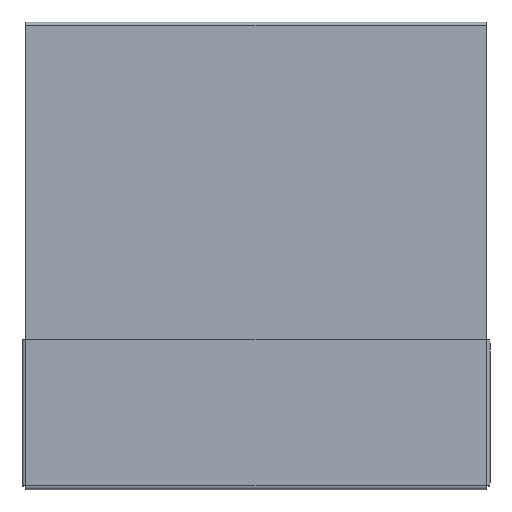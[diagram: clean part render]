
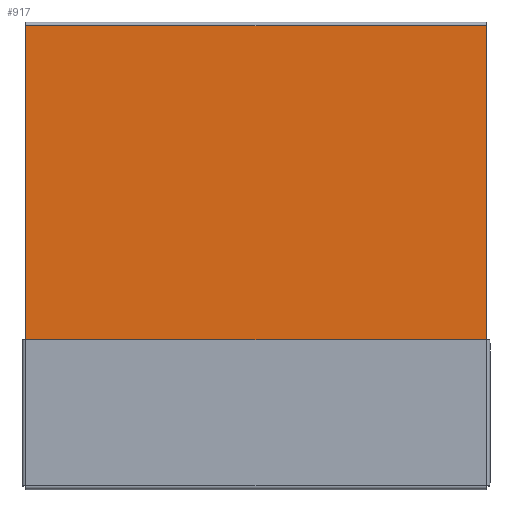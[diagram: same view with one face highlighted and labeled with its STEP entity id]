
A CAD part, top view. The second image highlights one B-rep face of the part: STEP entity #917.
In plain terms, the highlighted planar face has unit normal (0, 0, 1).
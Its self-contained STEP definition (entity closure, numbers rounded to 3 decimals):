
#12 = DIRECTION ( 'NONE',  ( 0., 0., 1. ) ) ;
#24 = ORIENTED_EDGE ( 'NONE', *, *, #607, .T. ) ;
#61 = LINE ( 'NONE', #2714, #1621 ) ;
#102 = VERTEX_POINT ( 'NONE', #3806 ) ;
#105 = CARTESIAN_POINT ( 'NONE',  ( -94.6, -100., 0. ) ) ;
#132 = CARTESIAN_POINT ( 'NONE',  ( 123., -125., 0. ) ) ;
#301 = FACE_OUTER_BOUND ( 'NONE', #3305, .T. ) ;
#548 = FACE_BOUND ( 'NONE', #1602, .T. ) ;
#574 = EDGE_CURVE ( 'NONE', #102, #1648, #1813, .T. ) ;
#607 = EDGE_CURVE ( 'NONE', #3271, #1648, #61, .T. ) ;
#608 = ORIENTED_EDGE ( 'NONE', *, *, #574, .F. ) ;
#717 = CARTESIAN_POINT ( 'NONE',  ( -101.4, -100., 0. ) ) ;
#866 = PLANE ( 'NONE',  #2680 ) ;
#917 = ADVANCED_FACE ( 'NONE', ( #548, #2088, #301 ), #866, .T. ) ;
#937 = CARTESIAN_POINT ( 'NONE',  ( 123., -123., 0. ) ) ;
#947 = VECTOR ( 'NONE', #3239, 1000. ) ;
#951 = VERTEX_POINT ( 'NONE', #1158 ) ;
#1055 = VERTEX_POINT ( 'NONE', #105 ) ;
#1074 = CARTESIAN_POINT ( 'NONE',  ( 101.4, -100., 0. ) ) ;
#1158 = CARTESIAN_POINT ( 'NONE',  ( 94.6, -100., 0. ) ) ;
#1162 = DIRECTION ( 'NONE',  ( 0., -1., 0. ) ) ;
#1164 = LINE ( 'NONE', #2343, #1566 ) ;
#1317 = CARTESIAN_POINT ( 'NONE',  ( 98., -100., 0. ) ) ;
#1367 = ORIENTED_EDGE ( 'NONE', *, *, #2276, .F. ) ;
#1471 = CARTESIAN_POINT ( 'NONE',  ( 0., 0., 0. ) ) ;
#1519 = CIRCLE ( 'NONE', #2803, 3.4 ) ;
#1525 = CARTESIAN_POINT ( 'NONE',  ( -123., 123., 0. ) ) ;
#1566 = VECTOR ( 'NONE', #2058, 1000. ) ;
#1577 = CARTESIAN_POINT ( 'NONE',  ( -98., -100., 0. ) ) ;
#1583 = EDGE_LOOP ( 'NONE', ( #2868, #1367 ) ) ;
#1602 = EDGE_LOOP ( 'NONE', ( #2349, #2875 ) ) ;
#1621 = VECTOR ( 'NONE', #1162, 1000. ) ;
#1641 = VERTEX_POINT ( 'NONE', #717 ) ;
#1648 = VERTEX_POINT ( 'NONE', #1905 ) ;
#1671 = DIRECTION ( 'NONE',  ( 0., 0., 1. ) ) ;
#1738 = AXIS2_PLACEMENT_3D ( 'NONE', #1577, #3063, #3359 ) ;
#1788 = DIRECTION ( 'NONE',  ( 1., 0., 0. ) ) ;
#1813 = LINE ( 'NONE', #937, #947 ) ;
#1851 = LINE ( 'NONE', #132, #3432 ) ;
#1865 = DIRECTION ( 'NONE',  ( 0., 0., 1. ) ) ;
#1905 = CARTESIAN_POINT ( 'NONE',  ( -123., -123., 0. ) ) ;
#1945 = AXIS2_PLACEMENT_3D ( 'NONE', #3007, #3268, #3531 ) ;
#1992 = CARTESIAN_POINT ( 'NONE',  ( 98., -100., 0. ) ) ;
#2024 = EDGE_CURVE ( 'NONE', #3134, #951, #1519, .T. ) ;
#2058 = DIRECTION ( 'NONE',  ( -1., 0., 0. ) ) ;
#2088 = FACE_BOUND ( 'NONE', #1583, .T. ) ;
#2175 = ORIENTED_EDGE ( 'NONE', *, *, #3274, .T. ) ;
#2276 = EDGE_CURVE ( 'NONE', #1055, #1641, #3418, .T. ) ;
#2343 = CARTESIAN_POINT ( 'NONE',  ( 123., 123., 0. ) ) ;
#2349 = ORIENTED_EDGE ( 'NONE', *, *, #3535, .F. ) ;
#2465 = ORIENTED_EDGE ( 'NONE', *, *, #3323, .T. ) ;
#2666 = VERTEX_POINT ( 'NONE', #3789 ) ;
#2680 = AXIS2_PLACEMENT_3D ( 'NONE', #1471, #12, #1788 ) ;
#2714 = CARTESIAN_POINT ( 'NONE',  ( -123., -125., 0. ) ) ;
#2803 = AXIS2_PLACEMENT_3D ( 'NONE', #1317, #1865, #3676 ) ;
#2868 = ORIENTED_EDGE ( 'NONE', *, *, #3366, .F. ) ;
#2875 = ORIENTED_EDGE ( 'NONE', *, *, #2024, .F. ) ;
#3007 = CARTESIAN_POINT ( 'NONE',  ( -98., -100., 0. ) ) ;
#3041 = DIRECTION ( 'NONE',  ( 0., 1., 0. ) ) ;
#3063 = DIRECTION ( 'NONE',  ( 0., 0., 1. ) ) ;
#3134 = VERTEX_POINT ( 'NONE', #1074 ) ;
#3239 = DIRECTION ( 'NONE',  ( -1., 0., 0. ) ) ;
#3268 = DIRECTION ( 'NONE',  ( 0., 0., 1. ) ) ;
#3271 = VERTEX_POINT ( 'NONE', #1525 ) ;
#3273 = CIRCLE ( 'NONE', #1738, 3.4 ) ;
#3274 = EDGE_CURVE ( 'NONE', #2666, #3271, #1164, .T. ) ;
#3305 = EDGE_LOOP ( 'NONE', ( #24, #608, #2465, #2175 ) ) ;
#3323 = EDGE_CURVE ( 'NONE', #102, #2666, #1851, .T. ) ;
#3359 = DIRECTION ( 'NONE',  ( 1., 0., 0. ) ) ;
#3366 = EDGE_CURVE ( 'NONE', #1641, #1055, #3273, .T. ) ;
#3408 = AXIS2_PLACEMENT_3D ( 'NONE', #1992, #1671, #3417 ) ;
#3417 = DIRECTION ( 'NONE',  ( 1., 0., 0. ) ) ;
#3418 = CIRCLE ( 'NONE', #1945, 3.4 ) ;
#3432 = VECTOR ( 'NONE', #3041, 1000. ) ;
#3531 = DIRECTION ( 'NONE',  ( 1., 0., 0. ) ) ;
#3535 = EDGE_CURVE ( 'NONE', #951, #3134, #3603, .T. ) ;
#3603 = CIRCLE ( 'NONE', #3408, 3.4 ) ;
#3676 = DIRECTION ( 'NONE',  ( 1., 0., 0. ) ) ;
#3789 = CARTESIAN_POINT ( 'NONE',  ( 123., 123., 0. ) ) ;
#3806 = CARTESIAN_POINT ( 'NONE',  ( 123., -123., 0. ) ) ;
